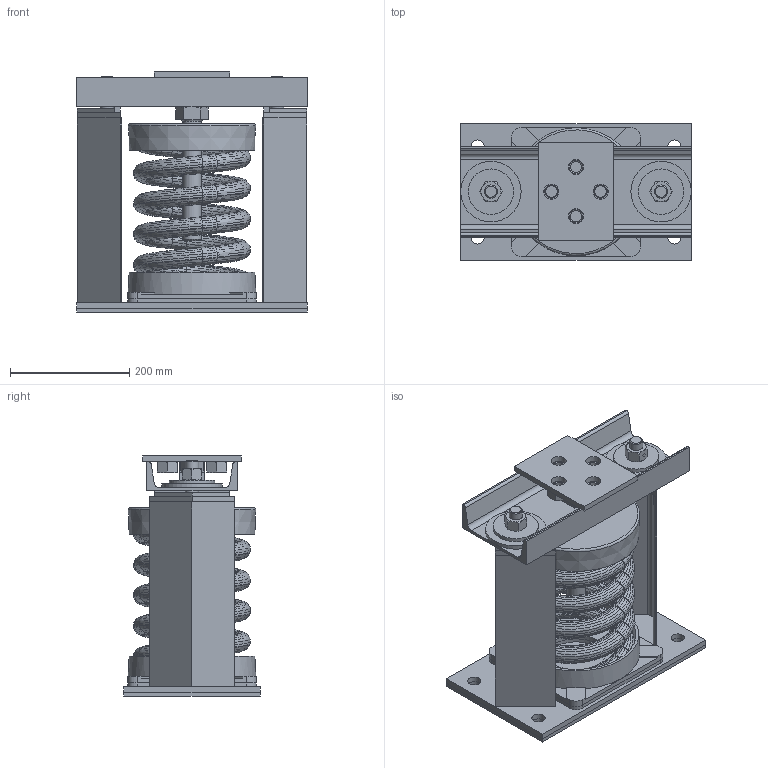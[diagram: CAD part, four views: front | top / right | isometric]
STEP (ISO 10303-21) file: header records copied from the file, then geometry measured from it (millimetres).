
FILE_DESCRIPTION(/* description */ (''),/* implementation_level */ '2;1');
FILE_NAME(/* name */ 'C:\001_Work\Designs\SLR-100 SERIES\SLR 100 SERIES (STOCK MOUNTS)\SLR 137, 138, 159\SLR-138.stp',/* time_stamp */ '2016-01-19T10:24:59-05:00',/* author */ ('rramoutar'),/* organization */ ('Mason Industries Inc.'),/* preprocessor_version */ 'ST-DEVELOPER v15.6',/* originating_system */ 'Autodesk Inventor 2015',/* authorisation */ '');
FILE_SCHEMA (('CONFIG_CONTROL_DESIGN'));
Products named in the file (1): SLR-138 PER A-21763-3
Bounding box: 387.35 x 228.6 x 403.23 mm (x, y, z)
Volume: 5068474.6 mm3; surface area: 1901045.3 mm2
Topology: 32 solids, 32 shells, 1012 faces, 2183 edges, 1248 vertices
Faces by surface type: bspline 495, plane 317, cone 122, cylinder 74, torus 4
Full cylindrical faces by diameter (mm): 9.525 x2, 11.112 x1, 12.7 x4, 19.177 x6, 22.225 x10, 22.733 x2, 23.812 x4, 25.4 x4, 28.178 x1, 31.75 x1, 33.325 x2, 41.275 x2, 47.623 x2, 47.625 x3, 76.2 x2, 101.6 x4, 201.612 x2
Entity records: 46565 total; most frequent: CARTESIAN_POINT 28181, ORIENTED_EDGE 4154, DIRECTION 2194, EDGE_CURVE 2077, VERTEX_POINT 1218, EDGE_LOOP 1163, STYLED_ITEM 1044, FACE_OUTER_BOUND 1012
